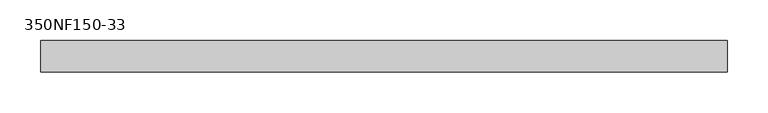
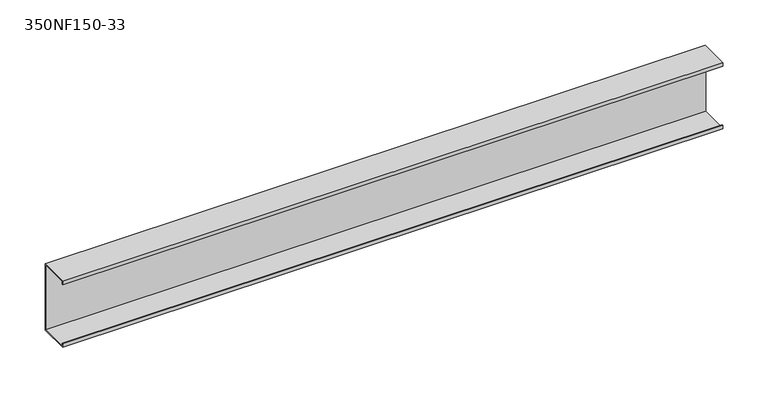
"""IFC4 building model written with IfcOpenShell, lengths in millimetres: beam geometry, BIMSF-SSMA-S : 350NF150-33."""

import ifcopenshell
import ifcopenshell.guid

model = None  # the IFC model being written
_history = None  # IfcOwnerHistory: only IFC2X3 demands one
_inside = {}  # id of a spatial element -> (the spatial element, [elements in it])
_under = {}  # id of a project, library or spatial element -> (it, [spatial elements below it])
_declared = {}  # id of a project -> (the project, [libraries it declares])
_typed = {}  # id of a type object -> (the type object, [elements of that type])
_made_of = {}  # id of a material, layer set ... -> (it, [elements and type objects made of it])


def new_model(schema):
    """Start an empty IFC model of exactly this schema.

    Asked for "IFC4X3", IfcOpenShell would pick the latest addendum, in which some entities
    have other attributes; the version numbers below select the first issue.
    IFC2X3 requires an IfcOwnerHistory on every rooted entity: one is made here for all.
    """
    global model, _history
    if schema == "IFC4X3":
        model = ifcopenshell.file(schema_version=(4, 3, 0, 0))
    else:
        model = ifcopenshell.file(schema=schema)
    _inside.clear()
    _under.clear()
    _declared.clear()
    _typed.clear()
    _made_of.clear()
    _history = None
    if model.schema == "IFC2X3":
        org = make("IfcOrganization", Name="unknown")
        user = make(
            "IfcPersonAndOrganization",
            ThePerson=make("IfcPerson", FamilyName="unknown"),
            TheOrganization=org,
        )
        app = make(
            "IfcApplication",
            ApplicationDeveloper=org,
            Version="unknown",
            ApplicationFullName="unknown",
            ApplicationIdentifier="unknown",
        )
        _history = make(
            "IfcOwnerHistory",
            OwningUser=user,
            OwningApplication=app,
            ChangeAction="ADDED",
            CreationDate=0,
        )
    return model


def make(cls, **values):
    """One entity of the class cls with the attributes given. An attribute that is None is left unset."""
    return model.create_entity(
        cls, **{name: value for name, value in values.items() if value is not None}
    )


def rooted(cls, **values):
    """An entity with a GlobalId (a new one), such as an element, a storey or a relation."""
    return make(cls, GlobalId=ifcopenshell.guid.new(), OwnerHistory=_history, **values)


def si_unit(unit_type, name, prefix=None):
    """IfcSIUnit, for example si_unit("LENGTHUNIT", "METRE", prefix="MILLI")."""
    return make("IfcSIUnit", UnitType=unit_type, Prefix=prefix, Name=name)


def assignment(units):
    """IfcUnitAssignment: the units of a project."""
    return None if units is None else make("IfcUnitAssignment", Units=units)


def point(xyz):
    """IfcCartesianPoint."""
    return None if xyz is None else make("IfcCartesianPoint", Coordinates=xyz)


def direction(xyz):
    """IfcDirection."""
    return None if xyz is None else make("IfcDirection", DirectionRatios=xyz)


def frame(location, z_axis=None, x_axis=None):
    """IfcAxis2Placement3D, a coordinate frame: its origin and axes. An axis left out is left unset."""
    return make(
        "IfcAxis2Placement3D",
        Location=point(location),
        Axis=direction(z_axis),
        RefDirection=direction(x_axis),
    )


def origin():
    """The frame at (0, 0, 0) with its axes left unset."""
    return frame((0.0, 0.0, 0.0))


def place(relative_to, where):
    """IfcLocalPlacement: puts the frame where relative to a parent placement (None: the world)."""
    return make(
        "IfcLocalPlacement", PlacementRelTo=relative_to, RelativePlacement=where
    )


def context(
    kind, dimensions, precision=None, world=None, true_north=None, identifier=None
):
    """IfcGeometricRepresentationContext, for example the 3D "Model" context."""
    return make(
        "IfcGeometricRepresentationContext",
        ContextIdentifier=identifier,
        ContextType=kind,
        CoordinateSpaceDimension=dimensions,
        Precision=precision,
        WorldCoordinateSystem=world,
        TrueNorth=true_north,
    )


def project(units=None, contexts=None):
    """IfcProject with its units and contexts."""
    return rooted(
        "IfcProject",
        Name="project",
        RepresentationContexts=contexts,
        UnitsInContext=assignment(units),
    )


def spatial(cls, under=None, at=None, **own):
    """A site, building, storey or space (cls), placed at a placement, below another one or the project."""
    s = rooted(cls, ObjectPlacement=at, **own)
    if under is not None:
        _under.setdefault(under.id(), (under, []))[1].append(s)
    return s


def polyline(points):
    """IfcPolyline through the points."""
    return make("IfcPolyline", Points=[point(p) for p in points])


def outline(outer, holes=None, kind="AREA"):
    """IfcArbitraryClosedProfileDef: a profile drawn as a closed curve; with holes, ...WithVoids."""
    if holes is None:
        return make("IfcArbitraryClosedProfileDef", ProfileType=kind, OuterCurve=outer)
    return make(
        "IfcArbitraryProfileDefWithVoids",
        ProfileType=kind,
        OuterCurve=outer,
        InnerCurves=holes,
    )


def extrude(swept, where, along, depth):
    """IfcExtrudedAreaSolid: the profile swept, set in the frame where, extruded along a direction by depth."""
    return make(
        "IfcExtrudedAreaSolid",
        SweptArea=swept,
        Position=where,
        ExtrudedDirection=direction(along),
        Depth=depth,
    )


def shape(context_of_items, identifier, shape_type, items):
    """IfcShapeRepresentation: the items that make up one representation, for example the "Body"."""
    return make(
        "IfcShapeRepresentation",
        ContextOfItems=context_of_items,
        RepresentationIdentifier=identifier,
        RepresentationType=shape_type,
        Items=items,
    )


def source(mapping_origin, context_of_items, identifier, shape_type, items):
    """IfcRepresentationMap: a shape defined once, which mapped items show again and again."""
    return make(
        "IfcRepresentationMap",
        MappingOrigin=mapping_origin,
        MappedRepresentation=shape(context_of_items, identifier, shape_type, items),
    )


def transform(
    local_origin,
    x_axis=None,
    y_axis=None,
    z_axis=None,
    scale=None,
    scale2=None,
    scale3=None,
    uniform=True,
):
    """IfcCartesianTransformationOperator3D, or its non-uniform kind. x_axis, y_axis, z_axis: its Axis1, 2, 3."""
    if uniform:
        return make(
            "IfcCartesianTransformationOperator3D",
            Axis1=direction(x_axis),
            Axis2=direction(y_axis),
            LocalOrigin=point(local_origin),
            Scale=scale,
            Axis3=direction(z_axis),
        )
    return make(
        "IfcCartesianTransformationOperator3DnonUniform",
        Axis1=direction(x_axis),
        Axis2=direction(y_axis),
        LocalOrigin=point(local_origin),
        Scale=scale,
        Axis3=direction(z_axis),
        Scale2=scale2,
        Scale3=scale3,
    )


def mapped(mapping_source, mapping_target):
    """IfcMappedItem: shows the shape of a source again, moved by a transform."""
    return make(
        "IfcMappedItem", MappingSource=mapping_source, MappingTarget=mapping_target
    )


def made_of(thing, what):
    """Note that an element or type object is made of a material, layer set ...; save() writes the relation."""
    if what is not None:
        _made_of.setdefault(what.id(), (what, []))[1].append(thing)
    return thing


def element(
    cls,
    number,
    at=None,
    inside=None,
    cuts=None,
    type_object=None,
    material=None,
    context=None,
    identifier="Body",
    shape_type=None,
    held_by="IfcProductDefinitionShape",
    body=None,
    shapes=None,
    **own,
):
    """One element of the class cls, such as IfcWall. Its Tag is "e" and its number.

    at: its placement. inside: the storey or other place that contains it. cuts: it is an
    opening in that element (IfcRelVoidsElement). A single representation is given by context,
    identifier, shape_type and body (its items); several are given by shapes. held_by: the class
    of the entity that holds the representations. save() writes the other relations.
    """
    e = rooted(cls, Tag="e%d" % number, ObjectPlacement=at, **own)
    if body is not None:
        shapes = [shape(context, identifier, shape_type, body)]
    if shapes is not None:
        e.Representation = make(held_by, Representations=shapes)
    if inside is not None:
        _inside.setdefault(inside.id(), (inside, []))[1].append(e)
    if cuts is not None:
        rooted(
            "IfcRelVoidsElement", RelatingBuildingElement=cuts, RelatedOpeningElement=e
        )
    if type_object is not None:
        _typed.setdefault(type_object.id(), (type_object, []))[1].append(e)
    return made_of(e, material)


def aggregate(whole, parts):
    """IfcRelAggregates: a whole, such as a stair, and the parts it consists of."""
    return rooted("IfcRelAggregates", RelatingObject=whole, RelatedObjects=parts)


def save(model, path):
    """Write the relations noted so far, then the file.

    IfcRelAggregates (storeys below a building ...), IfcRelContainedInSpatialStructure (elements
    in a storey), IfcRelDefinesByType, IfcRelAssociatesMaterial and IfcRelDeclares: one each for
    every whole, place, type object, material and project.
    """
    for whole, parts in _under.values():
        aggregate(whole, parts)
    for where, things in _inside.values():
        rooted(
            "IfcRelContainedInSpatialStructure",
            RelatedElements=things,
            RelatingStructure=where,
        )
    for kind, things in _typed.values():
        rooted("IfcRelDefinesByType", RelatedObjects=things, RelatingType=kind)
    for what, things in _made_of.values():
        rooted("IfcRelAssociatesMaterial", RelatedObjects=things, RelatingMaterial=what)
    for by, libraries in _declared.values():
        rooted("IfcRelDeclares", RelatingContext=by, RelatedDefinitions=libraries)
    model.write(path)


def beam_350nf150_33_5259f048(model_context):
    return source(origin(), model_context, "Body", "SweptSolid", [
        extrude(outline(polyline([(19.05, 44.45), (19.05, -44.45), (-19.05, -44.45), (-19.05, -39.6748), (-18.1676842, -39.6748), (-18.1676842, -43.5676842), (18.1676842, -43.5676842), (18.1676842, 43.5676842), (-18.1676842, 43.5676842), (-18.1676842, 39.6748), (-19.05, 39.6748), (-19.05, 44.45), (19.05, 44.45)])), frame((-419.1, 0.0, 0.0), z_axis=(1.0, 0.0, 0.0), x_axis=(0.0, 1.0, 0.0)), (0.0, 0.0, 1.0), 838.2),
    ])


if __name__ == "__main__":
    model = new_model("IFC4")
    model_context = context("Model", 3, world=origin())
    ifc_project = project(units=[si_unit("LENGTHUNIT", "METRE", prefix="MILLI")], contexts=[model_context])
    site = spatial("IfcSite", under=ifc_project)
    building = spatial("IfcBuilding", under=site)
    placement = place(None, origin())
    beam_350nf150_33_shape = beam_350nf150_33_5259f048(model_context)
    element("IfcBeam", 1, ObjectType="BIMSF-SSMA-S : 350NF150-33", at=placement, inside=building, context=model_context, shape_type="MappedRepresentation", body=[
        mapped(beam_350nf150_33_shape, transform((0.0, 0.0, 0.0), x_axis=(1.0, 0.0, 0.0), y_axis=(0.0, 1.0, 0.0), z_axis=(0.0, 0.0, 1.0))),
    ])
    save(model, "model.ifc")
